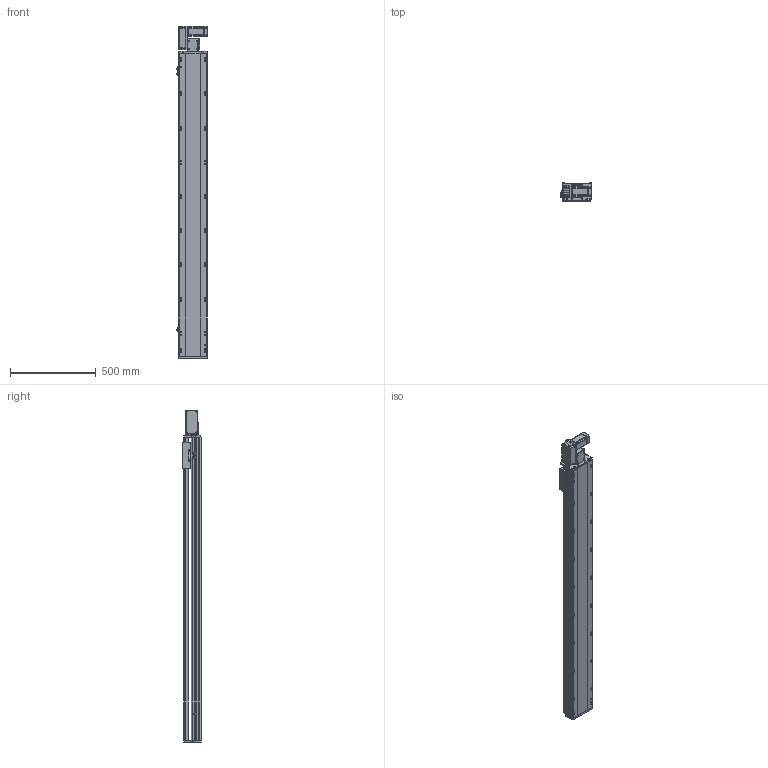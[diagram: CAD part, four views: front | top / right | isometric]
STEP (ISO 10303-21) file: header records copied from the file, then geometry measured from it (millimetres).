
FILE_DESCRIPTION (( 'STEP AP214' ), '1' );
FILE_NAME ('RTB17S-XX-1500-L-M40-C4.STEP', '2025-12-11T05:43:59', ( '' ), ( '' ), 'SwSTEP 2.0', 'SolidWorks 2018', '' );
FILE_SCHEMA (( 'AUTOMOTIVE_DESIGN' ));
Length unit declared in the file: millimetre
Products named in the file (14): RTB17S-L-007上盖^RTB17S-XX-XX-L-M40-C4（方程式）; RTB14-L-018P^RTB17S-L-皮带座装配-400W_RTB17S-XX-XX-L-M40-C4（方程式）; RTB14-L-008-M20--电机板^RTB17S-L-皮带座装配-400W_RTB17S-XX-XX-L-M40-C4（方程式）; RTB14-L-005P--轴承塑胶压盖^RTB17S-L-皮带座装配-400W_RTB17S-XX-XX-L-M40-C4（方程式）; RTB17-R-011底座^RTB17S-XX-XX-L-M40-C4（方程式）; OMRON EE-SX672 传感器^RTB17S-XX-XX-L-M40-C4（方程式）; RTB14-L-017P^RTB17S-L-皮带座装配-400W_RTB17S-XX-XX-L-M40-C4（方程式）; RTB17S-L-皮带座装配-400W^RTB17S-XX-XX-L-M40-C4（方程式）; RTB17S-L-001侧面板^RTB17S-XX-XX-L-M40-C4（方程式）; RTB17S-L-004丝杆螺母连接座^RTB17S-XX-XX-L-M40-C4（方程式）; 400W伺服电机^RTB17S-XX-XX-L-M40-C4（方程式）; RTB17S-XX-1500-L-M40-C4; RMP17S-L-014-T20--皮带座^RTB17S-L-皮带座装配-400W_RTB17S-XX-XX-L-M40-C4（方程式）; RTH13-BL-012感应片外置^RTB17S-XX-XX-L-M40-C4（方程式）
Assembly tree (16 placements, depth 3):
  RTB17S-XX-1500-L-M40-C4
    RTB17-R-011底座^RTB17S-XX-XX-L-M40-C4（方程式）
    RTB17S-L-007上盖^RTB17S-XX-XX-L-M40-C4（方程式）
    OMRON EE-SX672 传感器^RTB17S-XX-XX-L-M40-C4（方程式）  x3
    RTB17S-L-001侧面板^RTB17S-XX-XX-L-M40-C4（方程式）
    400W伺服电机^RTB17S-XX-XX-L-M40-C4（方程式）
    RTB17S-L-004丝杆螺母连接座^RTB17S-XX-XX-L-M40-C4（方程式）
    RTH13-BL-012感应片外置^RTB17S-XX-XX-L-M40-C4（方程式）
    RTB17S-L-皮带座装配-400W^RTB17S-XX-XX-L-M40-C4（方程式）
      RMP17S-L-014-T20--皮带座^RTB17S-L-皮带座装配-400W_RTB17S-XX-XX-L-M40-C4（方程式）
      RTB14-L-005P--轴承塑胶压盖^RTB17S-L-皮带座装配-400W_RTB17S-XX-XX-L-M40-C4（方程式）
      RTB14-L-008-M20--电机板^RTB17S-L-皮带座装配-400W_RTB17S-XX-XX-L-M40-C4（方程式）
      RTB14-L-017P^RTB17S-L-皮带座装配-400W_RTB17S-XX-XX-L-M40-C4（方程式）  x2
      RTB14-L-018P^RTB17S-L-皮带座装配-400W_RTB17S-XX-XX-L-M40-C4（方程式）
Bounding box: 186 x 108 x 1941 mm (x, y, z)
Volume: 16449197.5 mm3; surface area: 1943609.8 mm2
Topology: 15 solids, 15 shells, 2253 faces, 6249 edges, 4077 vertices
Faces by surface type: plane 1074, cylinder 731, bspline 301, cone 139, torus 8
Entity records: 64937 total; most frequent: CARTESIAN_POINT 18254, ORIENTED_EDGE 9342, DIRECTION 8666, EDGE_CURVE 4671, VERTEX_POINT 3065, AXIS2_PLACEMENT_3D 2995, LINE 2676, VECTOR 2676
